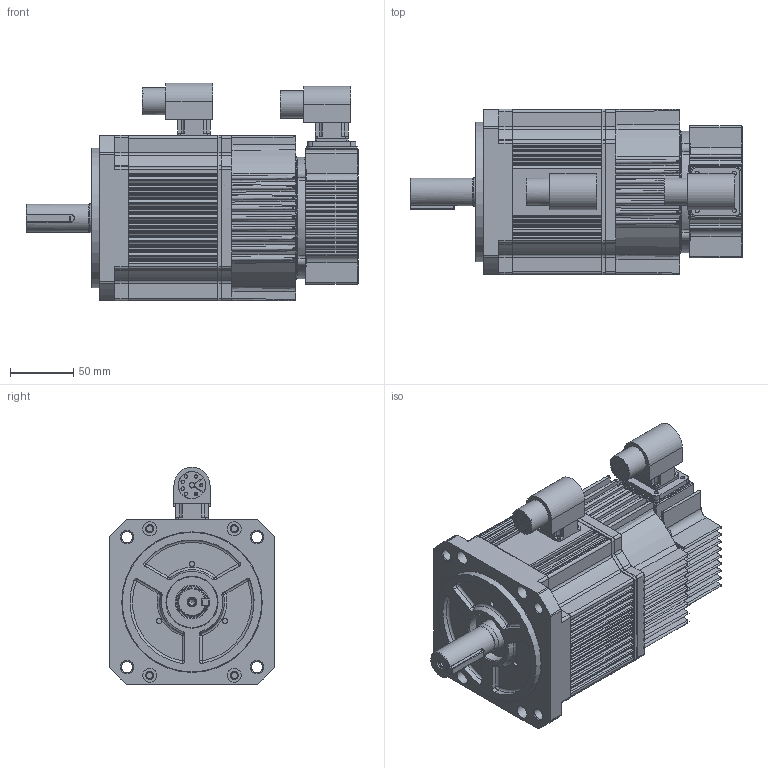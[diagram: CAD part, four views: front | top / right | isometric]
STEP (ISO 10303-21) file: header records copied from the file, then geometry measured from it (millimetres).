
FILE_DESCRIPTION( ( 'Unknown' ), '1' );
FILE_NAME( 'C:/Documents and Settings/chasechiu/桌面/KM/2D&3D帶煞/DTSB13102C/DTSB13102C3BG3D0K.stp', 'Unknown', ( 'Unknown' ), ( 'Unknown' ), 'PSStep 14.0', 'Unknown', ' ' );
FILE_SCHEMA( ( 'AUTOMOTIVE_DESIGN { 1 0 10303 214 1 1 1 1 }' ) );
Length unit declared in the file: millimetre
Products named in the file (14): 0S180JXB7BA0P-01_0; 0S331JXA0BP01-01_0; Assem1; \X2\50C5524D7AEF542B937569FD8EF\X0\; \X2\51F8625867B\X0\; 1KW\X2\4EE54E0A752853F05EA\X0\; \X2\8ECD898F96326C34588A724\X0\; \X2\4FDD84C\X0\; \X2\4FDD84CB96326C34588\X0\; 0S363JD0584BP-01_0; 0S302J0A1BP01-01_0; \X2\937\X0\; ___(_擗); ___(___δ_
Assembly tree (13 placements, depth 3):
  Assem1
    \X2\50C5524D7AEF542B937569FD8EF\X0\
    \X2\51F8625867B\X0\
    1KW\X2\4EE54E0A752853F05EA\X0\
    \X2\8ECD898F96326C34588A724\X0\
    \X2\4FDD84C\X0\
    \X2\4FDD84CB96326C34588\X0\
    0S363JD0584BP-01_0
    0S302J0A1BP01-01_0
    \X2\937\X0\
    ___(_擗)
    ___(___δ_
    0S180JXB7BA0P-01_0
      0S331JXA0BP01-01_0
Bounding box: 261.8 x 130.41 x 171.6 mm (x, y, z)
Volume: 2895332.4 mm3; surface area: 355778.8 mm2
Topology: 12 solids, 12 shells, 1663 faces, 4405 edges, 2823 vertices
Faces by surface type: cylinder 739, plane 643, torus 142, bspline 71, cone 48, sphere 20
Full cylindrical faces by diameter (mm): 1.5 x17, 1.926 x2, 1.985 x1, 2.013 x4, 2.5 x4, 2.585 x2, 2.611 x2, 2.621 x4, 2.637 x1, 2.7 x8, 2.834 x2, 3.25 x4, 3.5 x4, 3.746 x1, 4 x3, 5 x9, 6.2 x1, 6.5 x12, 9 x4, 11 x4, 20 x2, 21.5 x2, 22 x1, 24 x1, 24.9 x1, 40 x1, 110 x1, 120 x2, 120.8 x1, 125 x1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
Entity records: 73186 total; most frequent: CARTESIAN_POINT 18578, DIRECTION 8879, ORIENTED_EDGE 8422, EDGE_CURVE 4211, AXIS2_PLACEMENT_3D 3455, VERTEX_POINT 2771, LINE 1969, VECTOR 1969
